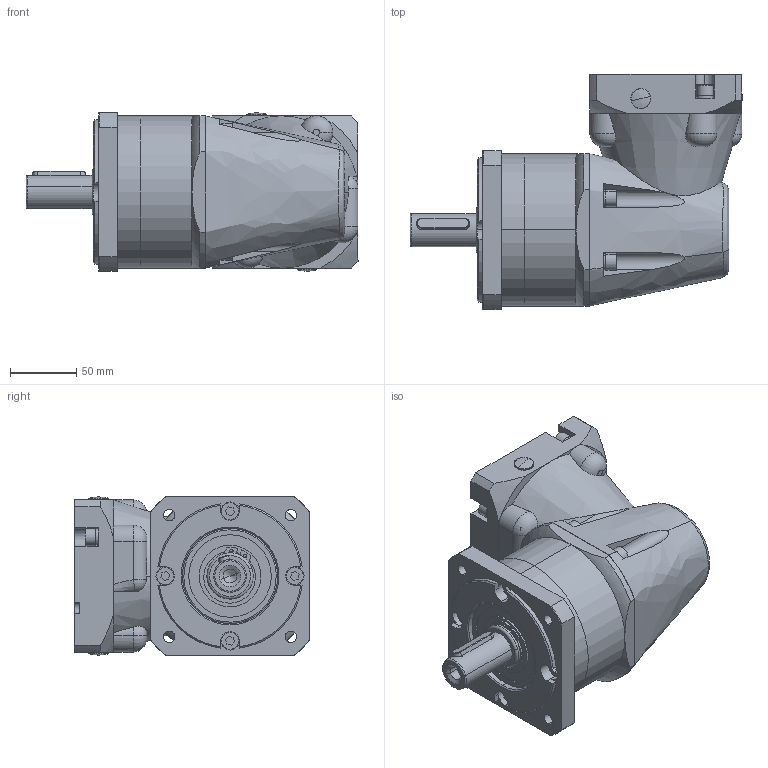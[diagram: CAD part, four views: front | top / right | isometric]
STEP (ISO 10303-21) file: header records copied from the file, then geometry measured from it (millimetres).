
FILE_DESCRIPTION (( 'STEP AP203' ), '1' );
FILE_NAME ('WPF115L1-i-P2-S2-19-40-70-90-M5.step', '2020-03-30T09:01:24', ( '个人用户' ), ( '微软中国' ), 'SwSTEP 2.0', 'SolidWorks 2018', '' );
FILE_SCHEMA (( 'CONFIG_CONTROL_DESIGN' ));
Length unit declared in the file: millimetre
Products named in the file (1): WPF115L1-i-P2-S2-19-40-70-90-M5
Bounding box: 251 x 177.5 x 120 mm (x, y, z)
Volume: 1638757.7 mm3; surface area: 375954.7 mm2
Topology: 41 solids, 41 shells, 1217 faces, 2893 edges, 1830 vertices
Faces by surface type: cylinder 433, plane 393, torus 158, cone 145, sphere 78, bspline 10
Entity records: 41436 total; most frequent: CARTESIAN_POINT 12649, DIRECTION 6365, ORIENTED_EDGE 5718, EDGE_CURVE 2859, AXIS2_PLACEMENT_3D 2610, VERTEX_POINT 1830, EDGE_LOOP 1407, CIRCLE 1402
